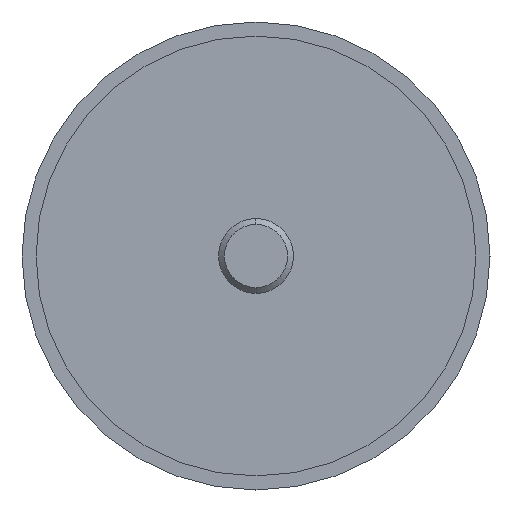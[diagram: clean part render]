
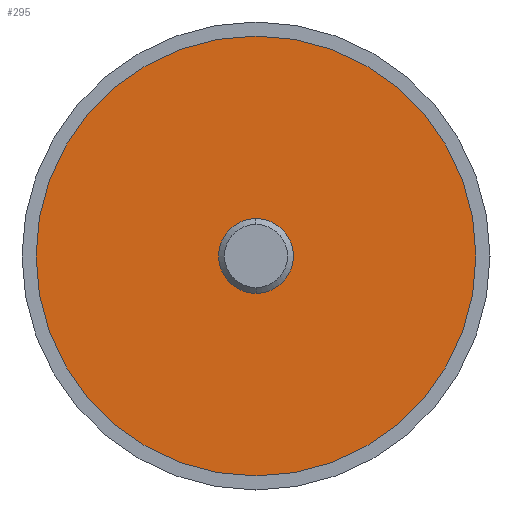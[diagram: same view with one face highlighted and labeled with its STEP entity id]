
A CAD part, left-side view. The second image highlights one B-rep face of the part: STEP entity #295.
In plain terms, the highlighted planar face has unit normal (-1, 0, 0).
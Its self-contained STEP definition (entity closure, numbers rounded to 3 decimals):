
#38 = DIRECTION ( 'NONE',  ( 1., 0., 0. ) ) ;
#104 = CARTESIAN_POINT ( 'NONE',  ( -19.99, 0., 0. ) ) ;
#140 = CARTESIAN_POINT ( 'NONE',  ( -19.99, 0., 8. ) ) ;
#151 = EDGE_CURVE ( 'NONE', #393, #227, #517, .T. ) ;
#163 = EDGE_CURVE ( 'NONE', #227, #393, #187, .T. ) ;
#187 = CIRCLE ( 'NONE', #467, 8. ) ;
#210 = DIRECTION ( 'NONE',  ( -1., 0., 0. ) ) ;
#218 = EDGE_LOOP ( 'NONE', ( #529, #575 ) ) ;
#227 = VERTEX_POINT ( 'NONE', #339 ) ;
#237 = DIRECTION ( 'NONE',  ( 0., 0., -1. ) ) ;
#253 = CARTESIAN_POINT ( 'NONE',  ( -19.99, 0., 0. ) ) ;
#265 = EDGE_CURVE ( 'NONE', #660, #398, #592, .T. ) ;
#267 = EDGE_LOOP ( 'NONE', ( #541, #320 ) ) ;
#295 = ADVANCED_FACE ( 'NONE', ( #415, #508 ), #558, .F. ) ;
#309 = CARTESIAN_POINT ( 'NONE',  ( -19.99, 0., 47. ) ) ;
#320 = ORIENTED_EDGE ( 'NONE', *, *, #265, .T. ) ;
#339 = CARTESIAN_POINT ( 'NONE',  ( -19.99, 0., -8. ) ) ;
#369 = DIRECTION ( 'NONE',  ( 0., 0., -1. ) ) ;
#383 = DIRECTION ( 'NONE',  ( 0., 0., 1. ) ) ;
#388 = DIRECTION ( 'NONE',  ( 0., 0., 1. ) ) ;
#393 = VERTEX_POINT ( 'NONE', #140 ) ;
#398 = VERTEX_POINT ( 'NONE', #309 ) ;
#415 = FACE_OUTER_BOUND ( 'NONE', #267, .T. ) ;
#423 = AXIS2_PLACEMENT_3D ( 'NONE', #427, #539, #383 ) ;
#425 = DIRECTION ( 'NONE',  ( 0., 0., -1. ) ) ;
#427 = CARTESIAN_POINT ( 'NONE',  ( -19.99, 0., 0. ) ) ;
#443 = CARTESIAN_POINT ( 'NONE',  ( -19.99, 0., 0. ) ) ;
#467 = AXIS2_PLACEMENT_3D ( 'NONE', #253, #210, #425 ) ;
#474 = DIRECTION ( 'NONE',  ( -1., 0., 0. ) ) ;
#478 = AXIS2_PLACEMENT_3D ( 'NONE', #443, #641, #388 ) ;
#500 = AXIS2_PLACEMENT_3D ( 'NONE', #657, #38, #237 ) ;
#508 = FACE_BOUND ( 'NONE', #218, .T. ) ;
#517 = CIRCLE ( 'NONE', #662, 8. ) ;
#529 = ORIENTED_EDGE ( 'NONE', *, *, #151, .F. ) ;
#539 = DIRECTION ( 'NONE',  ( -1., 0., 0. ) ) ;
#541 = ORIENTED_EDGE ( 'NONE', *, *, #557, .T. ) ;
#556 = CARTESIAN_POINT ( 'NONE',  ( -19.99, 0., -47. ) ) ;
#557 = EDGE_CURVE ( 'NONE', #398, #660, #613, .T. ) ;
#558 = PLANE ( 'NONE',  #500 ) ;
#575 = ORIENTED_EDGE ( 'NONE', *, *, #163, .F. ) ;
#592 = CIRCLE ( 'NONE', #478, 47. ) ;
#613 = CIRCLE ( 'NONE', #423, 47. ) ;
#641 = DIRECTION ( 'NONE',  ( -1., 0., 0. ) ) ;
#657 = CARTESIAN_POINT ( 'NONE',  ( -19.99, 47., 0. ) ) ;
#660 = VERTEX_POINT ( 'NONE', #556 ) ;
#662 = AXIS2_PLACEMENT_3D ( 'NONE', #104, #474, #369 ) ;
